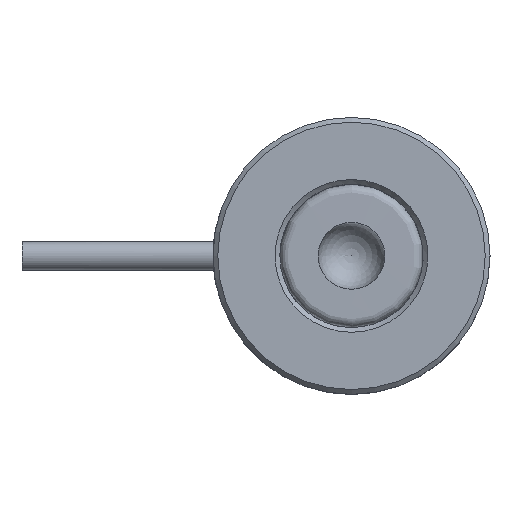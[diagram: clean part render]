
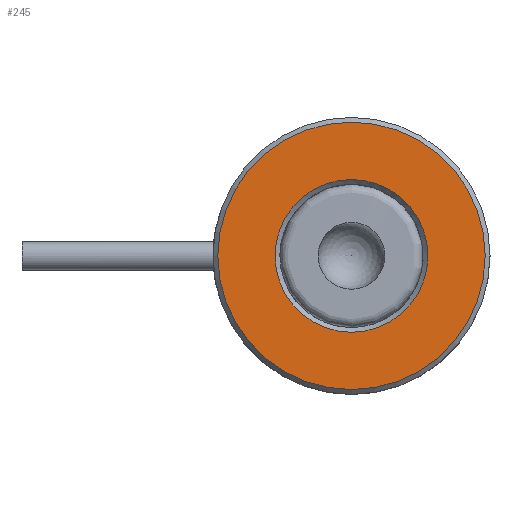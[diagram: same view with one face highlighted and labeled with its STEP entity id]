
A CAD part, top view. The second image highlights one B-rep face of the part: STEP entity #245.
In plain terms, the highlighted planar face has unit normal (0, 0, 1).
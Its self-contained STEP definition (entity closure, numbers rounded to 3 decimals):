
#245=ADVANCED_FACE('',(#562,#563),#564,.T.);
#562=FACE_OUTER_BOUND('',#908,.T.);
#563=FACE_BOUND('',#909,.T.);
#564=PLANE('',#910);
#908=EDGE_LOOP('',(#1644));
#909=EDGE_LOOP('',(#1645));
#910=AXIS2_PLACEMENT_3D('',#1646,#1647,#1648);
#1644=ORIENTED_EDGE('',*,*,#1862,.T.);
#1645=ORIENTED_EDGE('',*,*,#1859,.T.);
#1646=CARTESIAN_POINT('',(0.0,0.0,0.0));
#1647=DIRECTION('',(-0.0,0.,1.0));
#1648=DIRECTION('',(-1.0,0.0,-0.0));
#1859=EDGE_CURVE('',#2096,#2096,#2097,.F.);
#1862=EDGE_CURVE('',#2101,#2101,#2102,.T.);
#2096=VERTEX_POINT('',#2532);
#2097=CIRCLE('',#2533,8.0);
#2101=VERTEX_POINT('',#2537);
#2102=CIRCLE('',#2538,14.0);
#2532=CARTESIAN_POINT('',(-8.0,0.,0.));
#2533=AXIS2_PLACEMENT_3D('',#2800,#2801,#2802);
#2537=CARTESIAN_POINT('',(-14.0,0.0,0.0));
#2538=AXIS2_PLACEMENT_3D('',#2806,#2807,#2808);
#2800=CARTESIAN_POINT('',(0.0,0.0,0.0));
#2801=DIRECTION('',(-0.0,0.,1.0));
#2802=DIRECTION('',(-1.0,0.0,-0.0));
#2806=CARTESIAN_POINT('',(0.0,0.0,0.0));
#2807=DIRECTION('',(-0.0,0.,1.0));
#2808=DIRECTION('',(-1.0,0.0,-0.0));
